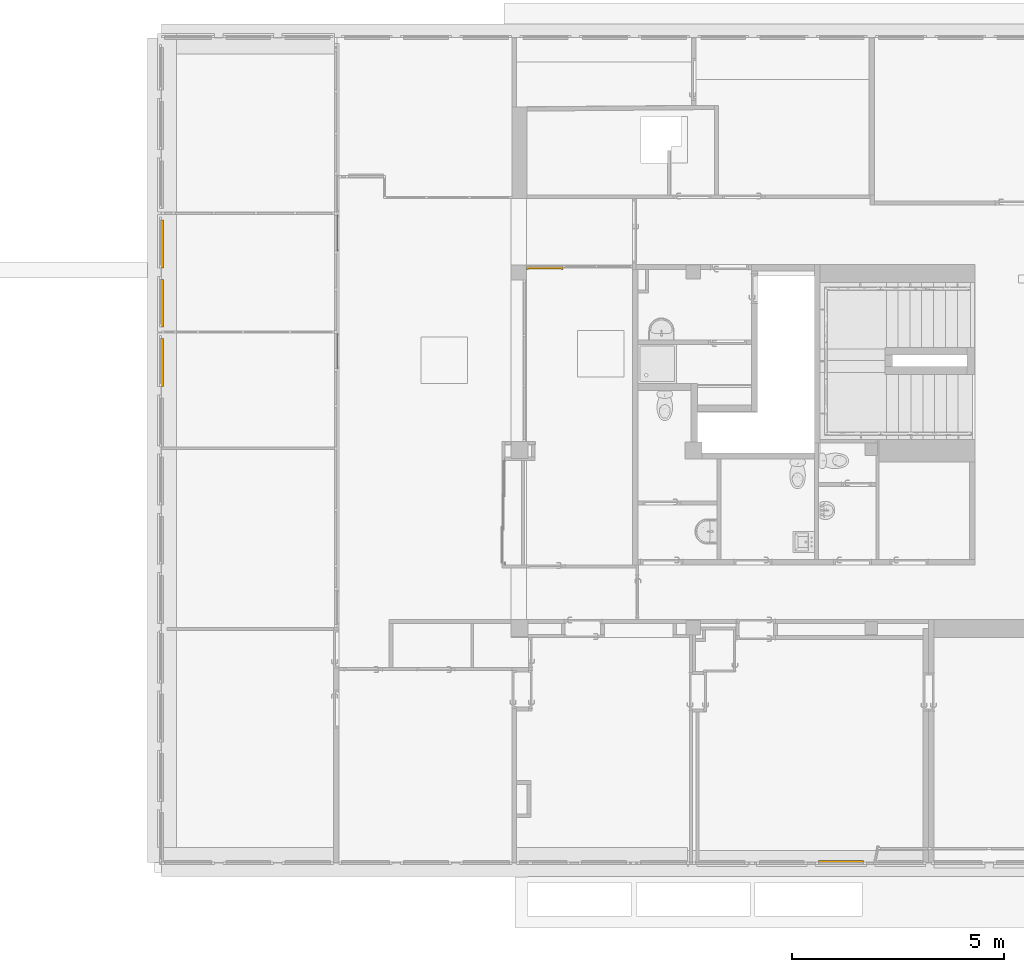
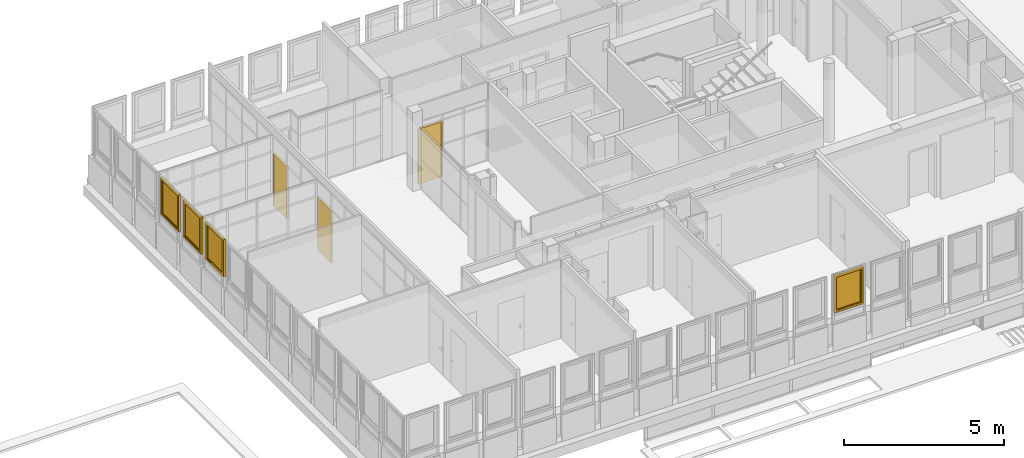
# One storey, part 85 of 97: 4 windows, 3 doors, 6 elements without a shape of their own.
"""IFC4 building model written with IfcOpenShell, lengths in metres."""

from ifc_helpers import new_model, entity, si_unit, converted_unit, derived_unit, direction, frame, origin, place, context, subcontext, project, spatial, indexed_curve, outline, extrude, polygons, source, transform, mapped, material, material_list, constituent, constituent_set, type_object, type_shapes, element, aggregate, save


model = new_model("IFC4")

# Units and contexts
model_context = context("Model", 3, precision=1e-05, world=origin(), true_north=direction((6.12303176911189e-17, 1.0)))
body_context = subcontext(model_context, "Body", "Model", "MODEL_VIEW")
ifc_project = project(units=[si_unit("LENGTHUNIT", "METRE"), si_unit("AREAUNIT", "SQUARE_METRE"), si_unit("VOLUMEUNIT", "CUBIC_METRE"), converted_unit("PLANEANGLEUNIT", "DEGREE", entity("IfcRatioMeasure", 0.0174532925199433), si_unit("PLANEANGLEUNIT", "RADIAN"), dimensions=[0, 0, 0, 0, 0, 0, 0]), si_unit("MASSUNIT", "GRAM", prefix="KILO"), derived_unit("MASSDENSITYUNIT", [(si_unit("MASSUNIT", "GRAM", prefix="KILO"), 1), (si_unit("LENGTHUNIT", "METRE"), -3)]), derived_unit("MOMENTOFINERTIAUNIT", [(si_unit("LENGTHUNIT", "METRE"), 4)]), si_unit("TIMEUNIT", "SECOND"), si_unit("FREQUENCYUNIT", "HERTZ"), si_unit("THERMODYNAMICTEMPERATUREUNIT", "DEGREE_CELSIUS"), derived_unit("THERMALTRANSMITTANCEUNIT", [(si_unit("MASSUNIT", "GRAM", prefix="KILO"), 1), (si_unit("THERMODYNAMICTEMPERATUREUNIT", "KELVIN"), -1), (si_unit("TIMEUNIT", "SECOND"), -3)]), derived_unit("VOLUMETRICFLOWRATEUNIT", [(si_unit("LENGTHUNIT", "METRE"), 3), (si_unit("TIMEUNIT", "SECOND"), -1)]), si_unit("ELECTRICCURRENTUNIT", "AMPERE"), si_unit("ELECTRICVOLTAGEUNIT", "VOLT"), si_unit("POWERUNIT", "WATT"), si_unit("FORCEUNIT", "NEWTON", prefix="KILO"), si_unit("ILLUMINANCEUNIT", "LUX"), si_unit("LUMINOUSFLUXUNIT", "LUMEN"), si_unit("LUMINOUSINTENSITYUNIT", "CANDELA"), derived_unit("USERDEFINED", [(si_unit("MASSUNIT", "GRAM", prefix="KILO"), -1), (si_unit("LENGTHUNIT", "METRE"), -2), (si_unit("TIMEUNIT", "SECOND"), 3), (si_unit("LUMINOUSFLUXUNIT", "LUMEN"), 1)]), derived_unit("LINEARVELOCITYUNIT", [(si_unit("LENGTHUNIT", "METRE"), 1), (si_unit("TIMEUNIT", "SECOND"), -1)]), si_unit("PRESSUREUNIT", "PASCAL"), derived_unit("USERDEFINED", [(si_unit("LENGTHUNIT", "METRE"), -2), (si_unit("MASSUNIT", "GRAM", prefix="KILO"), 1), (si_unit("TIMEUNIT", "SECOND"), -2)]), derived_unit("LINEARFORCEUNIT", [(si_unit("MASSUNIT", "GRAM", prefix="KILO"), 1), (si_unit("LENGTHUNIT", "METRE"), 1), (si_unit("TIMEUNIT", "SECOND"), -2), (si_unit("LENGTHUNIT", "METRE"), -1)]), derived_unit("PLANARFORCEUNIT", [(si_unit("MASSUNIT", "GRAM", prefix="KILO"), 1), (si_unit("LENGTHUNIT", "METRE"), 1), (si_unit("TIMEUNIT", "SECOND"), -2), (si_unit("LENGTHUNIT", "METRE"), -2)])], contexts=[model_context])

# Site, building, storey
site_placement = place(None, origin())
site = spatial("IfcSite", under=ifc_project, at=site_placement, Name="Default", CompositionType="ELEMENT")
building_placement = place(site_placement, origin())
building = spatial("IfcBuilding", under=site, at=building_placement, Name="HOTEL CONSULAIRE BOULOGNE SUR MER", CompositionType="ELEMENT")
storey_placement = place(building_placement, frame((0.0, 0.0, 3.62152697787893)))
storey = spatial("IfcBuildingStorey", under=building, at=storey_placement, Name="Niveau 1", CompositionType="ELEMENT", Elevation=3.62152697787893)

# Curtain wall, window
curtain_wall_type = type_object("IfcCurtainWallType", Name="Mur-rideau:Simple panneau", PredefinedType="NOTDEFINED")
curtain_wall_1_placement = place(storey_placement, frame((0.0, 0.0, -3.62152697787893)))
curtain_wall_1 = element("IfcCurtainWall", 1, at=curtain_wall_1_placement, inside=storey, type_object=curtain_wall_type, Name="Mur-rideau:Simple panneau", ObjectType="Mur-rideau:Simple panneau", PredefinedType="NOTDEFINED")
ifc_material_1 = material(Name="PVC - Blanc", Category="Plastique")
ifc_constituent_1 = constituent(ifc_material_1, Name="PVC - Blanc", Category="Matériaux")
ifc_material_2 = material(Name="Fenêtre - Vitrage", Category="Verre")
ifc_constituent_2 = constituent(ifc_material_2, Name="Fenêtre - Vitrage", Category="Matériaux")
ifc_constituent_set_1 = constituent_set(constituents=[ifc_constituent_1, ifc_constituent_2], Name="MaterialConstituentSet")
ifc_material_list_1 = material_list([ifc_material_1, ifc_material_1])
window_type_1 = type_object("IfcWindowType", Name="MR 1 Vantail:MR 1 Vantail", PartitioningType="NOTDEFINED", PredefinedType="WINDOW", material=ifc_material_list_1)
shared_shape_1 = source(origin(), body_context, "Body", "Tessellation", [
    polygons([(-0.495646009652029, -0.0492408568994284, 0.472033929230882), (-0.484353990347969, -0.0492408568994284, 0.472033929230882), (-0.482966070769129, -0.0492408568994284, 0.470646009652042), (-0.482966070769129, -0.0492408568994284, 0.459332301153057), (-0.484332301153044, -0.0492408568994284, 0.457966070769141), (-0.495667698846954, -0.0492408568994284, 0.457966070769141), (-0.497033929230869, -0.0492408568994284, 0.459332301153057), (-0.497033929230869, -0.0492408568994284, 0.470646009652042), (-0.497033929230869, -0.0615795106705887, 0.470646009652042), (-0.495646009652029, -0.0621544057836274, 0.472033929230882), (-0.497033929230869, -0.0568932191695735, 0.459332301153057), (-0.497033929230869, -0.0635731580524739, 0.452652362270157), (-0.497033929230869, -0.0635731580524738, 0.370000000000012), (-0.497033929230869, -0.0748868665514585, 0.370000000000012), (-0.497033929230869, -0.0748868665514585, 0.457338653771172), (-0.495667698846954, -0.0563273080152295, 0.457966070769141), (-0.484332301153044, -0.0563273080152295, 0.457966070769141), (-0.482966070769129, -0.0568932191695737, 0.459332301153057), (-0.482966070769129, -0.0615795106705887, 0.470646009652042), (-0.482966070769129, -0.0748868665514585, 0.457338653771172), (-0.482966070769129, -0.0748868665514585, 0.370000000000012), (-0.482966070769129, -0.0635731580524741, 0.370000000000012), (-0.482966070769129, -0.0635731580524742, 0.452652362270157), (-0.484353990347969, -0.0621544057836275, 0.472033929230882), (-0.495646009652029, -0.0762747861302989, 0.457913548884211), (-0.495667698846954, -0.0622069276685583, 0.452086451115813), (-0.484332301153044, -0.0622069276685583, 0.452086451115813), (-0.484353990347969, -0.0762747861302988, 0.457913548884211), (-0.495646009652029, -0.0762747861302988, 0.370000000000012), (-0.495667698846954, -0.0622069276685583, 0.370000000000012), (-0.484332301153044, -0.0622069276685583, 0.370000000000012), (-0.484353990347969, -0.0762747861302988, 0.370000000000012)], [[[6, 7, 8, 1, 2, 3, 4, 5]], [[30, 26, 27, 31]], [[9, 10, 1, 8]], [[11, 12, 13, 14, 15, 9, 8, 7]], [[16, 11, 7, 6]], [[16, 6, 5, 17]], [[31, 22, 21, 32, 29, 14, 13, 30]], [[17, 5, 4, 18]], [[3, 19, 20, 21, 22, 23, 18, 4]], [[19, 3, 2, 24]], [[24, 2, 1, 10]], [[15, 25, 10, 9]], [[26, 12, 11, 16]], [[27, 26, 16, 17]], [[27, 17, 18, 23]], [[20, 19, 24, 28]], [[28, 24, 10, 25]], [[29, 25, 15, 14]], [[13, 12, 26, 30]], [[22, 31, 27, 23]], [[32, 21, 20, 28]], [[32, 28, 25, 29]]], closed=True),
    polygons([(-0.497000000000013, -0.0432408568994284, 0.490000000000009), (-0.482999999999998, -0.0432408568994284, 0.490000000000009), (-0.477999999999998, -0.0432408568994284, 0.48500000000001), (-0.477999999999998, -0.0432408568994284, 0.414999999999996), (-0.482999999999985, -0.0432408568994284, 0.410000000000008), (-0.497000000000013, -0.0432408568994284, 0.410000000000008), (-0.501999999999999, -0.0432408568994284, 0.414999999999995), (-0.501999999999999, -0.0432408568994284, 0.48500000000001), (-0.497000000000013, -0.0492408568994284, 0.490000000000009), (-0.501999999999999, -0.0492408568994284, 0.48500000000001), (-0.501999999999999, -0.0492408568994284, 0.414999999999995), (-0.497000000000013, -0.0492408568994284, 0.410000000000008), (-0.482999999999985, -0.0492408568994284, 0.410000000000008), (-0.477999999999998, -0.0492408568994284, 0.414999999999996), (-0.477999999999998, -0.0492408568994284, 0.48500000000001), (-0.482999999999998, -0.0492408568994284, 0.490000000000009)], [[[2, 3, 4, 5, 6, 7, 8, 1]], [[13, 14, 15, 16, 9, 10, 11, 12]], [[9, 1, 8, 10]], [[10, 8, 7, 11]], [[11, 7, 6, 12]], [[12, 6, 5, 13]], [[13, 5, 4, 14]], [[15, 14, 4, 3]], [[15, 3, 2, 16]], [[16, 2, 1, 9]]], closed=True),
    polygons([(0.465000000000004, -0.0192408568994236, 1.32586048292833), (-0.465000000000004, -0.0192408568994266, 1.32586048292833), (-0.465000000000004, -0.0192408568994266, 0.0999999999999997), (0.465000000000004, -0.0192408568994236, 0.0999999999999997), (0.465000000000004, -0.00724085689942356, 1.32586048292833), (0.465000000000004, -0.00724085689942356, 0.0999999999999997), (-0.465000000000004, -0.00724085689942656, 0.0999999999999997), (-0.465000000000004, -0.00724085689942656, 1.32586048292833)], [[[4, 1, 2, 3]], [[7, 8, 5, 6]], [[2, 1, 5, 8]], [[3, 2, 8, 7]], [[4, 3, 7, 6]], [[1, 4, 6, 5]]], closed=True),
    polygons([(-0.515000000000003, 0.0167591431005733, 1.37586048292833), (-0.515000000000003, -0.043240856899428, 1.37586048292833), (0.515000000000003, -0.043240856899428, 1.37586048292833), (0.515000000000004, 0.0167591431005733, 1.37586048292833), (-0.465000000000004, -0.043240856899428, 1.32586048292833), (-0.465000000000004, 0.0167591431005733, 1.32586048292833), (0.465000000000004, 0.0167591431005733, 1.32586048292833), (0.465000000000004, -0.043240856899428, 1.32586048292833), (0.515000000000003, -0.043240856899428, 0.0500000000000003), (0.515000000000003, 0.0167591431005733, 0.0500000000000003), (0.465000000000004, 0.0167591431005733, 0.0999999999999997), (0.465000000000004, -0.043240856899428, 0.0999999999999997), (-0.515000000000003, -0.043240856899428, 0.0500000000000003), (-0.515000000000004, 0.0167591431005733, 0.0500000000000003), (-0.465000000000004, 0.0167591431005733, 0.0999999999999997), (-0.465000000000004, -0.043240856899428, 0.0999999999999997)], [[[1, 2, 3, 4]], [[12, 11, 15, 16]], [[5, 6, 7, 8]], [[10, 9, 13, 14]], [[4, 3, 9, 10]], [[16, 15, 6, 5]], [[8, 7, 11, 12]], [[14, 13, 2, 1]], [[9, 3, 2, 13], [16, 5, 8, 12]], [[14, 1, 4, 10], [11, 7, 6, 15]]], closed=True),
    polygons([(-0.505000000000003, 0.016759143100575, 1.36586048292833), (-0.505000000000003, 0.0267591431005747, 1.36586048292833), (0.505000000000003, 0.0267591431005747, 1.36586048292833), (0.505000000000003, 0.016759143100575, 1.36586048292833), (-0.515000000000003, -0.0432408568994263, 1.37586048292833), (-0.515000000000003, 0.016759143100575, 1.37586048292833), (0.515000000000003, 0.016759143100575, 1.37586048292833), (0.515000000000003, -0.0432408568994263, 1.37586048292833), (-0.565000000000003, 0.0267591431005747, 1.42586048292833), (-0.565000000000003, -0.0432408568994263, 1.42586048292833), (0.565000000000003, -0.0432408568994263, 1.42586048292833), (0.565000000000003, 0.0267591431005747, 1.42586048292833), (0.505000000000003, 0.0267591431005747, 0.0600000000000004), (0.505000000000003, 0.016759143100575, 0.0600000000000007), (0.515000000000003, 0.016759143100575, 0.0500000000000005), (0.515000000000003, -0.0432408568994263, 0.0500000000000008), (0.565000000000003, -0.0432408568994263, 5.41433564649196e-16), (0.565000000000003, 0.0267591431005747, 5.41433564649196e-16), (-0.505000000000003, 0.0267591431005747, 0.0600000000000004), (-0.505000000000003, 0.016759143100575, 0.0600000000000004), (-0.515000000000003, 0.016759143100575, 0.0500000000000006), (-0.515000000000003, -0.0432408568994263, 0.0500000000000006), (-0.565000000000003, -0.0432408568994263, 5.41433564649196e-16), (-0.565000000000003, 0.0267591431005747, 5.41433564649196e-16)], [[[1, 2, 3, 4]], [[5, 6, 7, 8]], [[18, 17, 23, 24]], [[9, 10, 11, 12]], [[14, 13, 19, 20]], [[16, 15, 21, 22]], [[4, 3, 13, 14]], [[8, 7, 15, 16]], [[24, 23, 10, 9]], [[12, 11, 17, 18]], [[20, 19, 2, 1]], [[22, 21, 6, 5]], [[24, 9, 12, 18], [13, 3, 2, 19]], [[15, 7, 6, 21], [20, 1, 4, 14]], [[17, 11, 10, 23], [22, 5, 8, 16]]], closed=True),
])
type_shapes(window_type_1, [shared_shape_1])
window_1_placement = place(curtain_wall_1_placement, frame((-13.7870998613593, -17.7464499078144, 4.79613951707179), z_axis=(0.0, 0.0, 1.0), x_axis=(0.0, 1.0, 0.0)))
window_1 = element("IfcWindow", 2, at=window_1_placement, type_object=window_type_1, material=ifc_constituent_set_1, Name="MR 1 Vantail:MR 1 Vantail", ObjectType="MR 1 Vantail:MR 1 Vantail", OverallHeight=1.42586048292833, OverallWidth=1.13000000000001, PartitioningType="NOTDEFINED", PredefinedType="WINDOW", context=body_context, shape_type="MappedRepresentation", body=[
    mapped(shared_shape_1, transform((0.0, 0.0, 0.0), scale=1.0)),
])
aggregate(curtain_wall_1, [window_1])

curtain_wall_2_placement = place(storey_placement, frame((0.0, 0.0, -3.62152697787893)))
curtain_wall_2 = element("IfcCurtainWall", 3, at=curtain_wall_2_placement, inside=storey, type_object=curtain_wall_type, Name="Mur-rideau:Simple panneau", ObjectType="Mur-rideau:Simple panneau", PredefinedType="NOTDEFINED")
ifc_constituent_3 = constituent(ifc_material_1, Name="PVC - Blanc", Category="Matériaux")
ifc_constituent_4 = constituent(ifc_material_2, Name="Fenêtre - Vitrage", Category="Matériaux")
ifc_constituent_set_2 = constituent_set(constituents=[ifc_constituent_3, ifc_constituent_4], Name="MaterialConstituentSet")
window_2_placement = place(curtain_wall_2_placement, frame((-13.7870998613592, -16.3464499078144, 4.79613951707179), z_axis=(0.0, 0.0, 1.0), x_axis=(0.0, 1.0, 0.0)))
window_2 = element("IfcWindow", 4, at=window_2_placement, type_object=window_type_1, material=ifc_constituent_set_2, Name="MR 1 Vantail:MR 1 Vantail", ObjectType="MR 1 Vantail:MR 1 Vantail", OverallHeight=1.42586048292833, OverallWidth=1.13000000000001, PartitioningType="NOTDEFINED", PredefinedType="WINDOW", context=body_context, shape_type="MappedRepresentation", body=[
    mapped(shared_shape_1, transform((0.0, 0.0, 0.0), scale=1.0)),
])
aggregate(curtain_wall_2, [window_2])

curtain_wall_3_placement = place(storey_placement, frame((0.0, 0.0, -3.62152697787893)))
curtain_wall_3 = element("IfcCurtainWall", 5, at=curtain_wall_3_placement, inside=storey, type_object=curtain_wall_type, Name="Mur-rideau:Simple panneau", ObjectType="Mur-rideau:Simple panneau", PredefinedType="NOTDEFINED")
ifc_constituent_5 = constituent(ifc_material_1, Name="PVC - Blanc", Category="Matériaux")
ifc_constituent_6 = constituent(ifc_material_2, Name="Fenêtre - Vitrage", Category="Matériaux")
ifc_constituent_set_3 = constituent_set(constituents=[ifc_constituent_5, ifc_constituent_6], Name="MaterialConstituentSet")
window_3_placement = place(curtain_wall_3_placement, frame((-13.7870998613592, -14.9464499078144, 4.79613951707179), z_axis=(0.0, 0.0, 1.0), x_axis=(0.0, 1.0, 0.0)))
window_3 = element("IfcWindow", 6, at=window_3_placement, type_object=window_type_1, material=ifc_constituent_set_3, Name="MR 1 Vantail:MR 1 Vantail", ObjectType="MR 1 Vantail:MR 1 Vantail", OverallHeight=1.42586048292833, OverallWidth=1.13000000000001, PartitioningType="NOTDEFINED", PredefinedType="WINDOW", context=body_context, shape_type="MappedRepresentation", body=[
    mapped(shared_shape_1, transform((0.0, 0.0, 0.0), scale=1.0)),
])
aggregate(curtain_wall_3, [window_3])

curtain_wall_4_placement = place(storey_placement, frame((0.0, 0.0, -3.62152697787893)))
curtain_wall_4 = element("IfcCurtainWall", 7, at=curtain_wall_4_placement, inside=storey, type_object=curtain_wall_type, Name="Mur-rideau:Simple panneau", ObjectType="Mur-rideau:Simple panneau", PredefinedType="NOTDEFINED")
ifc_constituent_7 = constituent(ifc_material_1, Name="PVC - Blanc", Category="Matériaux")
ifc_constituent_8 = constituent(ifc_material_2, Name="Fenêtre - Vitrage", Category="Matériaux")
ifc_constituent_set_4 = constituent_set(constituents=[ifc_constituent_7, ifc_constituent_8], Name="MaterialConstituentSet")
ifc_material_list_2 = material_list([ifc_material_1, ifc_material_1])
window_type_2 = type_object("IfcWindowType", Name="MR 1 Vantail:MR 1 Vantail", PartitioningType="NOTDEFINED", PredefinedType="WINDOW", material=ifc_material_list_2)
shared_shape_2 = source(origin(), body_context, "Body", "Tessellation", [
    polygons([(-0.460646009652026, -0.0492408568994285, 0.472033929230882), (-0.449353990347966, -0.0492408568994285, 0.472033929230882), (-0.447966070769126, -0.0492408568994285, 0.470646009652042), (-0.447966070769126, -0.0492408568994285, 0.459332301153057), (-0.449332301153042, -0.0492408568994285, 0.457966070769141), (-0.460667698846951, -0.0492408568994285, 0.457966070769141), (-0.462033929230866, -0.0492408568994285, 0.459332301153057), (-0.462033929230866, -0.0492408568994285, 0.470646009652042), (-0.462033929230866, -0.0615795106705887, 0.470646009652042), (-0.460646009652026, -0.0621544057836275, 0.472033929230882), (-0.462033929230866, -0.0568932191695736, 0.459332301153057), (-0.462033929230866, -0.063573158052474, 0.452652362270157), (-0.462033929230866, -0.0635731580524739, 0.370000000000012), (-0.462033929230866, -0.0748868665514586, 0.370000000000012), (-0.462033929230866, -0.0748868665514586, 0.457338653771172), (-0.460667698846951, -0.0563273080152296, 0.457966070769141), (-0.449332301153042, -0.0563273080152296, 0.457966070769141), (-0.447966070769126, -0.0568932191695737, 0.459332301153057), (-0.447966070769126, -0.0615795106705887, 0.470646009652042), (-0.447966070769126, -0.0748868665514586, 0.457338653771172), (-0.447966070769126, -0.0748868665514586, 0.370000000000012), (-0.447966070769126, -0.0635731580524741, 0.370000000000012), (-0.447966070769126, -0.0635731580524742, 0.452652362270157), (-0.449353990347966, -0.0621544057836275, 0.472033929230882), (-0.460646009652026, -0.0762747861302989, 0.457913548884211), (-0.460667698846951, -0.0622069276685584, 0.452086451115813), (-0.449332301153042, -0.0622069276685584, 0.452086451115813), (-0.449353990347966, -0.0762747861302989, 0.457913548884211), (-0.460646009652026, -0.0762747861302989, 0.370000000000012), (-0.460667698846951, -0.0622069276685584, 0.370000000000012), (-0.449332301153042, -0.0622069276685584, 0.370000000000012), (-0.449353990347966, -0.0762747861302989, 0.370000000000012)], [[[6, 7, 8, 1, 2, 3, 4, 5]], [[30, 26, 27, 31]], [[9, 10, 1, 8]], [[11, 12, 13, 14, 15, 9, 8, 7]], [[16, 11, 7, 6]], [[16, 6, 5, 17]], [[31, 22, 21, 32, 29, 14, 13, 30]], [[17, 5, 4, 18]], [[3, 19, 20, 21, 22, 23, 18, 4]], [[19, 3, 2, 24]], [[24, 2, 1, 10]], [[15, 25, 10, 9]], [[26, 12, 11, 16]], [[27, 26, 16, 17]], [[27, 17, 18, 23]], [[20, 19, 24, 28]], [[28, 24, 10, 25]], [[29, 25, 15, 14]], [[13, 12, 26, 30]], [[22, 31, 27, 23]], [[32, 21, 20, 28]], [[32, 28, 25, 29]]], closed=True),
    polygons([(-0.46200000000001, -0.0432408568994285, 0.490000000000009), (-0.447999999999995, -0.0432408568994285, 0.490000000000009), (-0.442999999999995, -0.0432408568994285, 0.48500000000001), (-0.442999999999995, -0.0432408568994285, 0.414999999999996), (-0.447999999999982, -0.0432408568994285, 0.410000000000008), (-0.46200000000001, -0.0432408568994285, 0.410000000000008), (-0.466999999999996, -0.0432408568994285, 0.414999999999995), (-0.466999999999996, -0.0432408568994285, 0.48500000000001), (-0.46200000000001, -0.0492408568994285, 0.490000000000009), (-0.466999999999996, -0.0492408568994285, 0.48500000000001), (-0.466999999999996, -0.0492408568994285, 0.414999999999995), (-0.46200000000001, -0.0492408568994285, 0.410000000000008), (-0.447999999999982, -0.0492408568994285, 0.410000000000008), (-0.442999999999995, -0.0492408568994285, 0.414999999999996), (-0.442999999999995, -0.0492408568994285, 0.48500000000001), (-0.447999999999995, -0.0492408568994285, 0.490000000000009)], [[[2, 3, 4, 5, 6, 7, 8, 1]], [[13, 14, 15, 16, 9, 10, 11, 12]], [[9, 1, 8, 10]], [[10, 8, 7, 11]], [[11, 7, 6, 12]], [[12, 6, 5, 13]], [[13, 5, 4, 14]], [[15, 14, 4, 3]], [[15, 3, 2, 16]], [[16, 2, 1, 9]]], closed=True),
    polygons([(0.430000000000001, -0.0192408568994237, 1.32586048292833), (-0.430000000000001, -0.0192408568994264, 1.32586048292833), (-0.430000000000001, -0.0192408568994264, 0.1), (0.430000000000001, -0.0192408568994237, 0.1), (0.430000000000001, -0.00724085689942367, 1.32586048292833), (0.430000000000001, -0.00724085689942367, 0.1), (-0.430000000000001, -0.00724085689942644, 0.1), (-0.430000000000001, -0.00724085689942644, 1.32586048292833)], [[[4, 1, 2, 3]], [[7, 8, 5, 6]], [[2, 1, 5, 8]], [[3, 2, 8, 7]], [[4, 3, 7, 6]], [[1, 4, 6, 5]]], closed=True),
    polygons([(-0.480000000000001, 0.0167591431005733, 1.37586048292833), (-0.480000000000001, -0.043240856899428, 1.37586048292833), (0.480000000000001, -0.043240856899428, 1.37586048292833), (0.48, 0.0167591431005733, 1.37586048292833), (-0.430000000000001, -0.043240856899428, 1.32586048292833), (-0.430000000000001, 0.0167591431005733, 1.32586048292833), (0.430000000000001, 0.0167591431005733, 1.32586048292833), (0.430000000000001, -0.043240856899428, 1.32586048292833), (0.48, -0.043240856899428, 0.0500000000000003), (0.48, 0.0167591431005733, 0.0500000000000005), (0.430000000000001, 0.0167591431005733, 0.1), (0.430000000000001, -0.043240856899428, 0.1), (-0.480000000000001, -0.043240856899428, 0.0500000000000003), (-0.480000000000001, 0.0167591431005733, 0.0500000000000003), (-0.430000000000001, 0.0167591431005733, 0.1), (-0.430000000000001, -0.043240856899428, 0.1)], [[[1, 2, 3, 4]], [[12, 11, 15, 16]], [[5, 6, 7, 8]], [[10, 9, 13, 14]], [[4, 3, 9, 10]], [[16, 15, 6, 5]], [[8, 7, 11, 12]], [[14, 13, 2, 1]], [[9, 3, 2, 13], [16, 5, 8, 12]], [[14, 1, 4, 10], [11, 7, 6, 15]]], closed=True),
    polygons([(-0.47, 0.016759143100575, 1.36586048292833), (-0.47, 0.0267591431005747, 1.36586048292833), (0.47, 0.0267591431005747, 1.36586048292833), (0.47, 0.016759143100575, 1.36586048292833), (-0.48, -0.0432408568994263, 1.37586048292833), (-0.48, 0.016759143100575, 1.37586048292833), (0.48, 0.016759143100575, 1.37586048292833), (0.48, -0.0432408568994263, 1.37586048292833), (-0.53, 0.0267591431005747, 1.42586048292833), (-0.53, -0.0432408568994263, 1.42586048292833), (0.53, -0.0432408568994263, 1.42586048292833), (0.53, 0.0267591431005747, 1.42586048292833), (0.47, 0.0267591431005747, 0.0600000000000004), (0.47, 0.016759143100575, 0.0600000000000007), (0.48, 0.016759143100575, 0.0500000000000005), (0.48, -0.0432408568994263, 0.0500000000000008), (0.53, -0.0432408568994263, 5.41433564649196e-16), (0.53, 0.0267591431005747, 5.41433564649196e-16), (-0.47, 0.0267591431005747, 0.0600000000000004), (-0.47, 0.016759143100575, 0.0600000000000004), (-0.48, 0.016759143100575, 0.0500000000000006), (-0.48, -0.0432408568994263, 0.0500000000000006), (-0.53, -0.0432408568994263, 5.41433564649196e-16), (-0.53, 0.0267591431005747, 5.41433564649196e-16)], [[[1, 2, 3, 4]], [[5, 6, 7, 8]], [[18, 17, 23, 24]], [[9, 10, 11, 12]], [[14, 13, 19, 20]], [[16, 15, 21, 22]], [[4, 3, 13, 14]], [[8, 7, 15, 16]], [[24, 23, 10, 9]], [[12, 11, 17, 18]], [[20, 19, 2, 1]], [[22, 21, 6, 5]], [[24, 9, 12, 18], [13, 3, 2, 19]], [[15, 7, 6, 21], [20, 1, 4, 14]], [[17, 11, 10, 23], [22, 5, 8, 16]]], closed=True),
])
type_shapes(window_type_2, [shared_shape_2])
window_4_placement = place(curtain_wall_4_placement, frame((2.25858002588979, -29.5501047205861, 4.79613951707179), z_axis=(0.0, 0.0, 1.0), x_axis=(-1.0, 0.0, 0.0)))
window_4 = element("IfcWindow", 8, at=window_4_placement, type_object=window_type_2, material=ifc_constituent_set_4, Name="MR 1 Vantail:MR 1 Vantail", ObjectType="MR 1 Vantail:MR 1 Vantail", OverallHeight=1.42586048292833, OverallWidth=1.06, PartitioningType="NOTDEFINED", PredefinedType="WINDOW", context=body_context, shape_type="MappedRepresentation", body=[
    mapped(shared_shape_2, transform((0.0, 0.0, 0.0), scale=1.0)),
])
aggregate(curtain_wall_4, [window_4])

# Curtain wall, doors
curtain_wall_5_placement = place(storey_placement, frame((0.0, 0.0, -3.62152697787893)))
curtain_wall_5 = element("IfcCurtainWall", 9, at=curtain_wall_5_placement, inside=storey, type_object=curtain_wall_type, Name="Mur-rideau:Simple panneau", ObjectType="Mur-rideau:Simple panneau", PredefinedType="NOTDEFINED")
ifc_material_3 = material(Name="PVC, souple", Category="Plastique")
ifc_constituent_9 = constituent(ifc_material_3, Name="PVC, souple", Category="Matériaux")
ifc_material_4 = material(Name="Verre", Category="Verre")
ifc_constituent_10 = constituent(ifc_material_4, Name="Verre", Category="Matériaux")
ifc_constituent_set_5 = constituent_set(constituents=[ifc_constituent_9, ifc_constituent_10], Name="MaterialConstituentSet")
ifc_material_5 = material(Name="Porte - Panneau", Category="Bois")
ifc_material_list_3 = material_list([ifc_material_3, ifc_material_4, ifc_material_5, ifc_material_3])
door_type_1 = type_object("IfcDoorType", Name="Simple vitrée 2:Simple vitrée 2", OperationType="SINGLE_SWING_RIGHT", PredefinedType="DOOR", material=ifc_material_list_3)
shared_shape_3 = source(origin(), body_context, "Body", "SweptSolid", [
    extrude(outline(indexed_curve([(0.3665, -0.992980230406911), (0.4165, -0.992980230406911), (0.4165, 1.01798023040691), (-0.4165, 1.01798023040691), (-0.4165, -0.992980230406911), (-0.3665, -0.992980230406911), (-0.3665, 0.967980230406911), (0.3665, 0.967980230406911), (0.3665, -0.992980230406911)], self_intersect=False)), frame((0.0, -0.045, 0.992980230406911), z_axis=(0.0, 1.0, 0.0), x_axis=(-1.0, 0.0, 0.0)), (0.0, 0.0, 1.0), 0.07),
    extrude(outline(indexed_curve([(-0.3665, -0.025), (0.3665, -0.025), (0.3665, 0.025), (-0.3665, 0.025), (-0.3665, -0.025)], self_intersect=False)), frame((0.0, -0.00999999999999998, 0.0), z_axis=(0.0, 0.0, 1.0), x_axis=(-1.0, 0.0, 0.0)), (0.0, 0.0, 1.0), 1.96096046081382),
])
type_shapes(door_type_1, [shared_shape_3])
door_1_placement = place(curtain_wall_5_placement, frame((-9.64962464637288, -17.4737596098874, 3.62152697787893), z_axis=(0.0, 0.0, 1.0), x_axis=(0.0, -1.0, 0.0)))
door_1 = element("IfcDoor", 10, at=door_1_placement, type_object=door_type_1, material=ifc_constituent_set_5, Name="Simple vitrée 2:Simple vitrée 2", ObjectType="Simple vitrée 2:Simple vitrée 2", OperationType="SINGLE_SWING_RIGHT", OverallHeight=2.01096046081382, OverallWidth=0.833, PredefinedType="DOOR", context=body_context, shape_type="MappedRepresentation", body=[
    mapped(shared_shape_3, transform((0.0, 0.0, 0.0), scale=1.0)),
])
ifc_constituent_11 = constituent(ifc_material_3, Name="PVC, souple", Category="Matériaux")
ifc_constituent_12 = constituent(ifc_material_4, Name="Verre", Category="Matériaux")
ifc_constituent_set_6 = constituent_set(constituents=[ifc_constituent_11, ifc_constituent_12], Name="MaterialConstituentSet")
ifc_material_list_4 = material_list([ifc_material_3, ifc_material_4, ifc_material_3, ifc_material_5])
door_type_2 = type_object("IfcDoorType", Name="Simple vitrée 2:Simple vitrée 2", OperationType="SINGLE_SWING_RIGHT", PredefinedType="DOOR", material=ifc_material_list_4)
shared_shape_4 = source(origin(), body_context, "Body", "SweptSolid", [
    extrude(outline(indexed_curve([(0.3735, -0.992980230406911), (0.4235, -0.992980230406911), (0.4235, 1.01798023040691), (-0.4235, 1.01798023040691), (-0.4235, -0.992980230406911), (-0.3735, -0.992980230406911), (-0.3735, 0.967980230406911), (0.3735, 0.967980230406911), (0.3735, -0.992980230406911)], self_intersect=False)), frame((0.0, -0.045, 0.992980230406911), z_axis=(0.0, 1.0, 0.0), x_axis=(-1.0, 0.0, 0.0)), (0.0, 0.0, 1.0), 0.07),
    extrude(outline(indexed_curve([(-0.3735, -0.025), (0.3735, -0.025), (0.3735, 0.025), (-0.3735, 0.025), (-0.3735, -0.025)], self_intersect=False)), frame((0.0, -0.00999999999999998, 0.0), z_axis=(0.0, 0.0, 1.0), x_axis=(-1.0, 0.0, 0.0)), (0.0, 0.0, 1.0), 1.96096046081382),
])
type_shapes(door_type_2, [shared_shape_4])
door_2_placement = place(curtain_wall_5_placement, frame((-9.64962464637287, -14.6897596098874, 3.62152697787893), z_axis=(0.0, 0.0, 1.0), x_axis=(0.0, -1.0, 0.0)))
door_2 = element("IfcDoor", 11, at=door_2_placement, type_object=door_type_2, material=ifc_constituent_set_6, Name="Simple vitrée 2:Simple vitrée 2", ObjectType="Simple vitrée 2:Simple vitrée 2", OperationType="SINGLE_SWING_RIGHT", OverallHeight=2.01096046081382, OverallWidth=0.847000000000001, PredefinedType="DOOR", context=body_context, shape_type="MappedRepresentation", body=[
    mapped(shared_shape_4, transform((0.0, 0.0, 0.0), scale=1.0)),
])
aggregate(curtain_wall_5, [door_1, door_2])

# Curtain wall, door
curtain_wall_6_placement = place(storey_placement, frame((0.0, 0.0, -3.62152697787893)))
curtain_wall_6 = element("IfcCurtainWall", 12, at=curtain_wall_6_placement, inside=storey, type_object=curtain_wall_type, Name="Mur-rideau:Simple panneau", ObjectType="Mur-rideau:Simple panneau", PredefinedType="NOTDEFINED")
ifc_constituent_13 = constituent(ifc_material_3, Name="PVC, souple", Category="Matériaux")
ifc_constituent_14 = constituent(ifc_material_4, Name="Verre", Category="Matériaux")
ifc_constituent_set_7 = constituent_set(constituents=[ifc_constituent_13, ifc_constituent_14], Name="MaterialConstituentSet")
ifc_material_list_5 = material_list([ifc_material_3, ifc_material_5, ifc_material_3, ifc_material_4])
door_type_3 = type_object("IfcDoorType", Name="Simple vitrée 2:Simple vitrée 2", OperationType="SINGLE_SWING_RIGHT", PredefinedType="DOOR", material=ifc_material_list_5)
shared_shape_5 = source(origin(), body_context, "Body", "SweptSolid", [
    extrude(outline(indexed_curve([(0.3835, -1.04169823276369), (0.4335, -1.04169823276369), (0.4335, 1.06669823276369), (-0.4335, 1.06669823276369), (-0.4335, -1.04169823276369), (-0.3835, -1.04169823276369), (-0.3835, 1.01669823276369), (0.3835, 1.01669823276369), (0.3835, -1.04169823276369)], self_intersect=False)), frame((0.0, -0.045, 1.04169823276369), z_axis=(0.0, 1.0, 0.0), x_axis=(-1.0, 0.0, 0.0)), (0.0, 0.0, 1.0), 0.0699999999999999),
    extrude(outline(indexed_curve([(-0.3835, -0.025), (0.3835, -0.025), (0.3835, 0.025), (-0.3835, 0.025), (-0.3835, -0.025)], self_intersect=False)), frame((0.0, -0.00999999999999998, 0.0), z_axis=(0.0, 0.0, 1.0), x_axis=(-1.0, 0.0, 0.0)), (0.0, 0.0, 1.0), 2.05839646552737),
])
type_shapes(door_type_3, [shared_shape_5])
door_3_placement = place(curtain_wall_6_placement, frame((-4.73902868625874, -15.5068590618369, 3.62152697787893)))
door_3 = element("IfcDoor", 13, at=door_3_placement, type_object=door_type_3, material=ifc_constituent_set_7, Name="Simple vitrée 2:Simple vitrée 2", ObjectType="Simple vitrée 2:Simple vitrée 2", OperationType="SINGLE_SWING_RIGHT", OverallHeight=2.10839646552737, OverallWidth=0.867, PredefinedType="DOOR", context=body_context, shape_type="MappedRepresentation", body=[
    mapped(shared_shape_5, transform((0.0, 0.0, 0.0), scale=1.0)),
])
aggregate(curtain_wall_6, [door_3])

save(model, "model.ifc")
